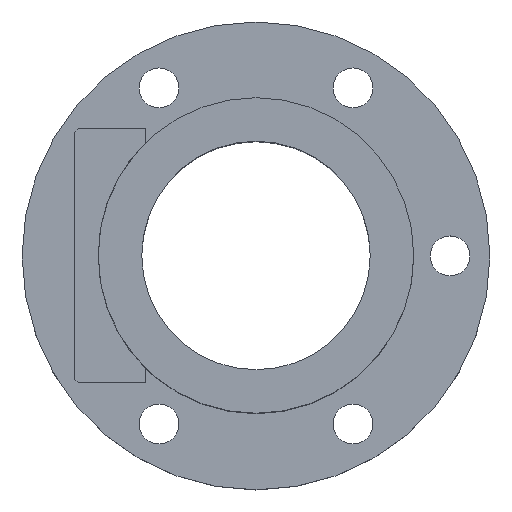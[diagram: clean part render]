
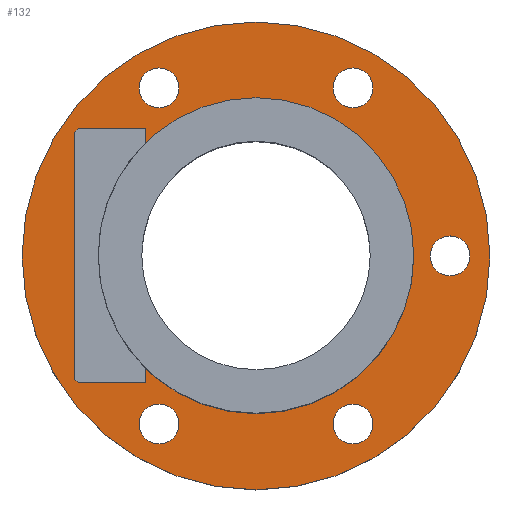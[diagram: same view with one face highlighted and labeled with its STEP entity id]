
A CAD part, top view. The second image highlights one B-rep face of the part: STEP entity #132.
In plain terms, the highlighted planar face has unit normal (0, 0, 1).
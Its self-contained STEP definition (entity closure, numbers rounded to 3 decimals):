
#97=PLANE('',#557);
#114=FACE_OUTER_BOUND('',#269,.T.);
#132=ADVANCED_FACE('',(#221,#222,#223,#114,#224,#225,#226),#97,.T.);
#221=FACE_BOUND('',#266,.T.);
#222=FACE_BOUND('',#267,.T.);
#223=FACE_BOUND('',#268,.T.);
#224=FACE_BOUND('',#270,.T.);
#225=FACE_BOUND('',#271,.T.);
#226=FACE_BOUND('',#272,.T.);
#266=EDGE_LOOP('',(#331));
#267=EDGE_LOOP('',(#332));
#268=EDGE_LOOP('',(#333));
#269=EDGE_LOOP('',(#334));
#270=EDGE_LOOP('',(#335));
#271=EDGE_LOOP('',(#336));
#272=EDGE_LOOP('',(#337));
#331=ORIENTED_EDGE('',*,*,#473,.F.);
#332=ORIENTED_EDGE('',*,*,#474,.F.);
#333=ORIENTED_EDGE('',*,*,#468,.F.);
#334=ORIENTED_EDGE('',*,*,#475,.T.);
#335=ORIENTED_EDGE('',*,*,#476,.F.);
#336=ORIENTED_EDGE('',*,*,#477,.F.);
#337=ORIENTED_EDGE('',*,*,#478,.F.);
#426=VERTEX_POINT('',#748);
#431=VERTEX_POINT('',#759);
#432=VERTEX_POINT('',#761);
#433=VERTEX_POINT('',#763);
#434=VERTEX_POINT('',#765);
#435=VERTEX_POINT('',#767);
#436=VERTEX_POINT('',#769);
#468=EDGE_CURVE('',#426,#426,#518,.T.);
#473=EDGE_CURVE('',#431,#431,#521,.T.);
#474=EDGE_CURVE('',#432,#432,#522,.T.);
#475=EDGE_CURVE('',#433,#433,#523,.T.);
#476=EDGE_CURVE('',#434,#434,#524,.T.);
#477=EDGE_CURVE('',#435,#435,#525,.T.);
#478=EDGE_CURVE('',#436,#436,#526,.T.);
#518=CIRCLE('',#547,43.5);
#521=CIRCLE('',#551,5.5);
#522=CIRCLE('',#552,5.5);
#523=CIRCLE('',#553,64.5);
#524=CIRCLE('',#554,5.5);
#525=CIRCLE('',#555,5.5);
#526=CIRCLE('',#556,5.5);
#547=AXIS2_PLACEMENT_3D('',#747,#608,#609);
#551=AXIS2_PLACEMENT_3D('',#758,#618,#619);
#552=AXIS2_PLACEMENT_3D('',#760,#620,#621);
#553=AXIS2_PLACEMENT_3D('',#762,#622,#623);
#554=AXIS2_PLACEMENT_3D('',#764,#624,#625);
#555=AXIS2_PLACEMENT_3D('',#766,#626,#627);
#556=AXIS2_PLACEMENT_3D('',#768,#628,#629);
#557=AXIS2_PLACEMENT_3D('',#770,#630,#631);
#608=DIRECTION('',(0.,0.,1.));
#609=DIRECTION('',(1.,0.,0.));
#618=DIRECTION('',(0.,0.,1.));
#619=DIRECTION('',(-0.5,-0.866,0.));
#620=DIRECTION('',(0.,0.,1.));
#621=DIRECTION('',(0.5,0.866,0.));
#622=DIRECTION('',(0.,0.,1.));
#623=DIRECTION('',(1.,0.,0.));
#624=DIRECTION('',(0.,0.,1.));
#625=DIRECTION('',(1.,0.,0.));
#626=DIRECTION('',(0.,0.,1.));
#627=DIRECTION('',(-1.,0.,0.));
#628=DIRECTION('',(0.,0.,1.));
#629=DIRECTION('',(0.5,-0.866,0.));
#630=DIRECTION('',(0.,0.,1.));
#631=DIRECTION('',(1.,0.,0.));
#747=CARTESIAN_POINT('',(0.,0.,18.));
#748=CARTESIAN_POINT('',(43.5,0.,18.));
#758=CARTESIAN_POINT('',(26.75,-46.332,18.));
#759=CARTESIAN_POINT('',(24.,-51.095,18.));
#760=CARTESIAN_POINT('',(-26.75,46.332,18.));
#761=CARTESIAN_POINT('',(-24.,51.095,18.));
#762=CARTESIAN_POINT('',(0.,0.,18.));
#763=CARTESIAN_POINT('',(64.5,0.,18.));
#764=CARTESIAN_POINT('',(26.75,46.332,18.));
#765=CARTESIAN_POINT('',(32.25,46.332,18.));
#766=CARTESIAN_POINT('',(-26.75,-46.332,18.));
#767=CARTESIAN_POINT('',(-32.25,-46.332,18.));
#768=CARTESIAN_POINT('',(53.5,0.,18.));
#769=CARTESIAN_POINT('',(56.25,-4.763,18.));
#770=CARTESIAN_POINT('',(0.,0.,18.));
